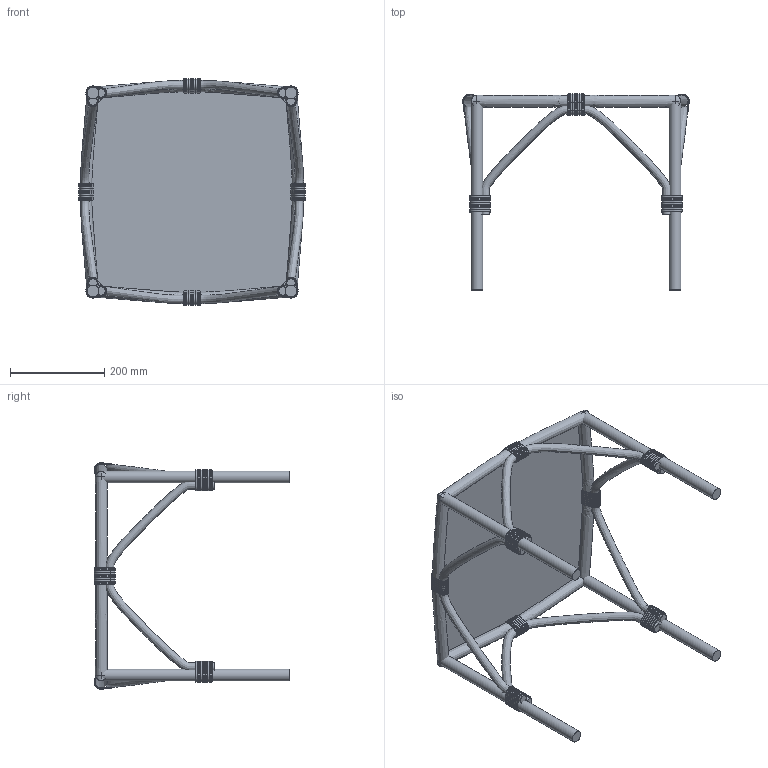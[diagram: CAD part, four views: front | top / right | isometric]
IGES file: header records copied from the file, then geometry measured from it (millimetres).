
Global section: file name: VincentSheppard_LucySideTableSmall v2; native system: unknown; preprocessor: unknown; author: ict@vincentsheppard.com; organization: unknown; date: 20180523.093602; units: millimetre
Bounding box: 480.3 x 415.14 x 480.3 mm (x, y, z)
Volume: 3484133.1 mm3; surface area: 928369.3 mm2
Topology: 68 solids, 68 shells, 1291 faces, 2920 edges, 1739 vertices
Faces by surface type: bspline 1291
